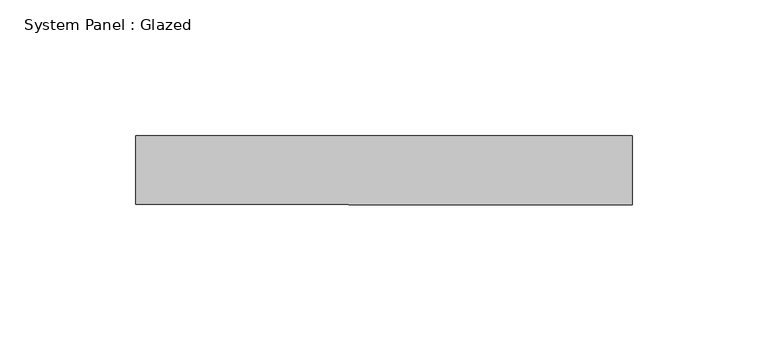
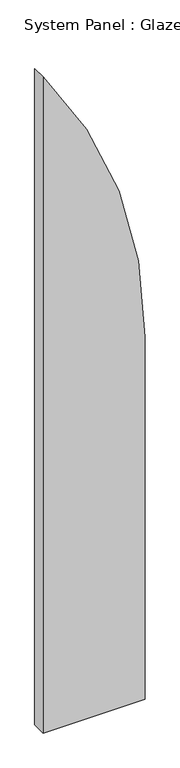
"""IFC4 building model written with IfcOpenShell, lengths in millimetres: plate geometry, System Panel : Glazed."""

import ifcopenshell
import ifcopenshell.guid

model = None  # the IFC model being written
_history = None  # IfcOwnerHistory: only IFC2X3 demands one
_inside = {}  # id of a spatial element -> (the spatial element, [elements in it])
_under = {}  # id of a project, library or spatial element -> (it, [spatial elements below it])
_declared = {}  # id of a project -> (the project, [libraries it declares])
_typed = {}  # id of a type object -> (the type object, [elements of that type])
_made_of = {}  # id of a material, layer set ... -> (it, [elements and type objects made of it])


def new_model(schema):
    """Start an empty IFC model of exactly this schema.

    Asked for "IFC4X3", IfcOpenShell would pick the latest addendum, in which some entities
    have other attributes; the version numbers below select the first issue.
    IFC2X3 requires an IfcOwnerHistory on every rooted entity: one is made here for all.
    """
    global model, _history
    if schema == "IFC4X3":
        model = ifcopenshell.file(schema_version=(4, 3, 0, 0))
    else:
        model = ifcopenshell.file(schema=schema)
    _inside.clear()
    _under.clear()
    _declared.clear()
    _typed.clear()
    _made_of.clear()
    _history = None
    if model.schema == "IFC2X3":
        org = make("IfcOrganization", Name="unknown")
        user = make(
            "IfcPersonAndOrganization",
            ThePerson=make("IfcPerson", FamilyName="unknown"),
            TheOrganization=org,
        )
        app = make(
            "IfcApplication",
            ApplicationDeveloper=org,
            Version="unknown",
            ApplicationFullName="unknown",
            ApplicationIdentifier="unknown",
        )
        _history = make(
            "IfcOwnerHistory",
            OwningUser=user,
            OwningApplication=app,
            ChangeAction="ADDED",
            CreationDate=0,
        )
    return model


def make(cls, **values):
    """One entity of the class cls with the attributes given. An attribute that is None is left unset."""
    return model.create_entity(
        cls, **{name: value for name, value in values.items() if value is not None}
    )


def rooted(cls, **values):
    """An entity with a GlobalId (a new one), such as an element, a storey or a relation."""
    return make(cls, GlobalId=ifcopenshell.guid.new(), OwnerHistory=_history, **values)


def si_unit(unit_type, name, prefix=None):
    """IfcSIUnit, for example si_unit("LENGTHUNIT", "METRE", prefix="MILLI")."""
    return make("IfcSIUnit", UnitType=unit_type, Prefix=prefix, Name=name)


def assignment(units):
    """IfcUnitAssignment: the units of a project."""
    return None if units is None else make("IfcUnitAssignment", Units=units)


def point(xyz):
    """IfcCartesianPoint."""
    return None if xyz is None else make("IfcCartesianPoint", Coordinates=xyz)


def direction(xyz):
    """IfcDirection."""
    return None if xyz is None else make("IfcDirection", DirectionRatios=xyz)


def frame(location, z_axis=None, x_axis=None):
    """IfcAxis2Placement3D, a coordinate frame: its origin and axes. An axis left out is left unset."""
    return make(
        "IfcAxis2Placement3D",
        Location=point(location),
        Axis=direction(z_axis),
        RefDirection=direction(x_axis),
    )


def frame_2d(location, x_axis=None):
    """IfcAxis2Placement2D, a coordinate frame in the plane: its origin and x axis."""
    return make(
        "IfcAxis2Placement2D", Location=point(location), RefDirection=direction(x_axis)
    )


def origin():
    """The frame at (0, 0, 0) with its axes left unset."""
    return frame((0.0, 0.0, 0.0))


def place(relative_to, where):
    """IfcLocalPlacement: puts the frame where relative to a parent placement (None: the world)."""
    return make(
        "IfcLocalPlacement", PlacementRelTo=relative_to, RelativePlacement=where
    )


def context(
    kind, dimensions, precision=None, world=None, true_north=None, identifier=None
):
    """IfcGeometricRepresentationContext, for example the 3D "Model" context."""
    return make(
        "IfcGeometricRepresentationContext",
        ContextIdentifier=identifier,
        ContextType=kind,
        CoordinateSpaceDimension=dimensions,
        Precision=precision,
        WorldCoordinateSystem=world,
        TrueNorth=true_north,
    )


def project(units=None, contexts=None):
    """IfcProject with its units and contexts."""
    return rooted(
        "IfcProject",
        Name="project",
        RepresentationContexts=contexts,
        UnitsInContext=assignment(units),
    )


def spatial(cls, under=None, at=None, **own):
    """A site, building, storey or space (cls), placed at a placement, below another one or the project."""
    s = rooted(cls, ObjectPlacement=at, **own)
    if under is not None:
        _under.setdefault(under.id(), (under, []))[1].append(s)
    return s


def polyline(points):
    """IfcPolyline through the points."""
    return make("IfcPolyline", Points=[point(p) for p in points])


def circle_curve(where, radius):
    """IfcCircle in the frame where."""
    return make("IfcCircle", Position=where, Radius=radius)


def trimmed(basis, trim1, trim2, sense, master):
    """IfcTrimmedCurve: the piece of a basis curve between two trims."""
    return make(
        "IfcTrimmedCurve",
        BasisCurve=basis,
        Trim1=trim1,
        Trim2=trim2,
        SenseAgreement=sense,
        MasterRepresentation=master,
    )


def segment(curve, same_sense, transition):
    """IfcCompositeCurveSegment."""
    return make(
        "IfcCompositeCurveSegment",
        Transition=transition,
        SameSense=same_sense,
        ParentCurve=curve,
    )


def composite_curve(segments, self_intersect=None):
    """IfcCompositeCurve: segments joined end to end."""
    return make("IfcCompositeCurve", Segments=segments, SelfIntersect=self_intersect)


def outline(outer, holes=None, kind="AREA"):
    """IfcArbitraryClosedProfileDef: a profile drawn as a closed curve; with holes, ...WithVoids."""
    if holes is None:
        return make("IfcArbitraryClosedProfileDef", ProfileType=kind, OuterCurve=outer)
    return make(
        "IfcArbitraryProfileDefWithVoids",
        ProfileType=kind,
        OuterCurve=outer,
        InnerCurves=holes,
    )


def extrude(swept, where, along, depth):
    """IfcExtrudedAreaSolid: the profile swept, set in the frame where, extruded along a direction by depth."""
    return make(
        "IfcExtrudedAreaSolid",
        SweptArea=swept,
        Position=where,
        ExtrudedDirection=direction(along),
        Depth=depth,
    )


def shape(context_of_items, identifier, shape_type, items):
    """IfcShapeRepresentation: the items that make up one representation, for example the "Body"."""
    return make(
        "IfcShapeRepresentation",
        ContextOfItems=context_of_items,
        RepresentationIdentifier=identifier,
        RepresentationType=shape_type,
        Items=items,
    )


def source(mapping_origin, context_of_items, identifier, shape_type, items):
    """IfcRepresentationMap: a shape defined once, which mapped items show again and again."""
    return make(
        "IfcRepresentationMap",
        MappingOrigin=mapping_origin,
        MappedRepresentation=shape(context_of_items, identifier, shape_type, items),
    )


def transform(
    local_origin,
    x_axis=None,
    y_axis=None,
    z_axis=None,
    scale=None,
    scale2=None,
    scale3=None,
    uniform=True,
):
    """IfcCartesianTransformationOperator3D, or its non-uniform kind. x_axis, y_axis, z_axis: its Axis1, 2, 3."""
    if uniform:
        return make(
            "IfcCartesianTransformationOperator3D",
            Axis1=direction(x_axis),
            Axis2=direction(y_axis),
            LocalOrigin=point(local_origin),
            Scale=scale,
            Axis3=direction(z_axis),
        )
    return make(
        "IfcCartesianTransformationOperator3DnonUniform",
        Axis1=direction(x_axis),
        Axis2=direction(y_axis),
        LocalOrigin=point(local_origin),
        Scale=scale,
        Axis3=direction(z_axis),
        Scale2=scale2,
        Scale3=scale3,
    )


def mapped(mapping_source, mapping_target):
    """IfcMappedItem: shows the shape of a source again, moved by a transform."""
    return make(
        "IfcMappedItem", MappingSource=mapping_source, MappingTarget=mapping_target
    )


def made_of(thing, what):
    """Note that an element or type object is made of a material, layer set ...; save() writes the relation."""
    if what is not None:
        _made_of.setdefault(what.id(), (what, []))[1].append(thing)
    return thing


def element(
    cls,
    number,
    at=None,
    inside=None,
    cuts=None,
    type_object=None,
    material=None,
    context=None,
    identifier="Body",
    shape_type=None,
    held_by="IfcProductDefinitionShape",
    body=None,
    shapes=None,
    **own,
):
    """One element of the class cls, such as IfcWall. Its Tag is "e" and its number.

    at: its placement. inside: the storey or other place that contains it. cuts: it is an
    opening in that element (IfcRelVoidsElement). A single representation is given by context,
    identifier, shape_type and body (its items); several are given by shapes. held_by: the class
    of the entity that holds the representations. save() writes the other relations.
    """
    e = rooted(cls, Tag="e%d" % number, ObjectPlacement=at, **own)
    if body is not None:
        shapes = [shape(context, identifier, shape_type, body)]
    if shapes is not None:
        e.Representation = make(held_by, Representations=shapes)
    if inside is not None:
        _inside.setdefault(inside.id(), (inside, []))[1].append(e)
    if cuts is not None:
        rooted(
            "IfcRelVoidsElement", RelatingBuildingElement=cuts, RelatedOpeningElement=e
        )
    if type_object is not None:
        _typed.setdefault(type_object.id(), (type_object, []))[1].append(e)
    return made_of(e, material)


def aggregate(whole, parts):
    """IfcRelAggregates: a whole, such as a stair, and the parts it consists of."""
    return rooted("IfcRelAggregates", RelatingObject=whole, RelatedObjects=parts)


def save(model, path):
    """Write the relations noted so far, then the file.

    IfcRelAggregates (storeys below a building ...), IfcRelContainedInSpatialStructure (elements
    in a storey), IfcRelDefinesByType, IfcRelAssociatesMaterial and IfcRelDeclares: one each for
    every whole, place, type object, material and project.
    """
    for whole, parts in _under.values():
        aggregate(whole, parts)
    for where, things in _inside.values():
        rooted(
            "IfcRelContainedInSpatialStructure",
            RelatedElements=things,
            RelatingStructure=where,
        )
    for kind, things in _typed.values():
        rooted("IfcRelDefinesByType", RelatedObjects=things, RelatingType=kind)
    for what, things in _made_of.values():
        rooted("IfcRelAssociatesMaterial", RelatedObjects=things, RelatingMaterial=what)
    for by, libraries in _declared.values():
        rooted("IfcRelDeclares", RelatingContext=by, RelatedDefinitions=libraries)
    model.write(path)


def system_panel_glazed_120e4517(model_context):
    return source(origin(), model_context, "Body", "SweptSolid", [
        extrude(outline(composite_curve([segment(polyline([(0.0, -91.5833332), (0.0, 91.5833332), (686.5, 91.5833332)]), True, "CONTINUOUS"), segment(trimmed(circle_curve(frame_2d((686.5, -844.9166668)), 936.5), [point((686.5, 91.5833332))], [point((1242.8462398, -91.5833332))], False, "CARTESIAN"), True, "CONTINUOUS"), segment(polyline([(1242.8462398, -91.5833332), (0.0, -91.5833332)]), True, "CONTINUOUS")], self_intersect=False)), frame((0.0, 19.05, 0.0), z_axis=(0.0, 1.0, 0.0), x_axis=(0.0, 0.0, 1.0)), (0.0, 0.0, 1.0), 25.4),
    ])


if __name__ == "__main__":
    model = new_model("IFC4")
    model_context = context("Model", 3, world=origin())
    ifc_project = project(units=[si_unit("LENGTHUNIT", "METRE", prefix="MILLI")], contexts=[model_context])
    site = spatial("IfcSite", under=ifc_project)
    building = spatial("IfcBuilding", under=site)
    placement = place(None, origin())
    system_panel_glazed_shape = system_panel_glazed_120e4517(model_context)
    element("IfcPlate", 1, ObjectType="System Panel : Glazed", at=placement, inside=building, context=model_context, shape_type="MappedRepresentation", body=[
        mapped(system_panel_glazed_shape, transform((0.0, 0.0, 0.0), x_axis=(1.0, 0.0, 0.0), y_axis=(0.0, 1.0, 0.0), z_axis=(0.0, 0.0, 1.0))),
    ])
    save(model, "model.ifc")
